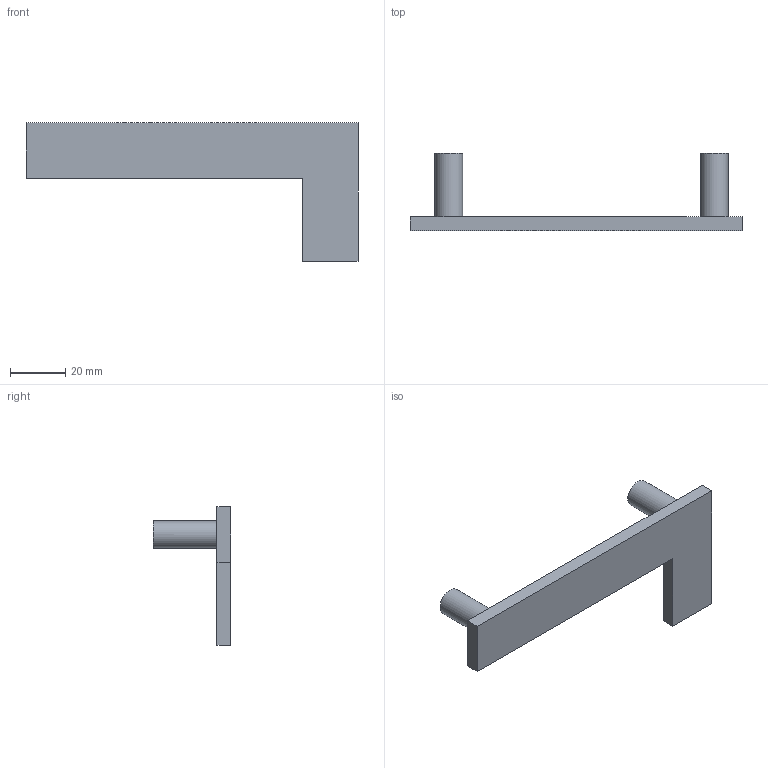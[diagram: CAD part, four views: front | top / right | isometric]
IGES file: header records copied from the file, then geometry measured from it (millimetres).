
Start section: Data from Parasolid IGES Translator 15.0.47, Copyright(c) 2006 Siemens P LM Software. All Rights Reserved.
Global section: file name: 9145271.igs; native system:  By UGS Corp.; preprocessor: XPlus GENERIC/IGES 3.0; author: Noname; organization: Noname; date: 20140123.103011; units: millimetre
Bounding box: 120 x 28 x 50 mm (x, y, z)
Surface area: 9396.5 mm2 (no closed solid volume)
Topology: 0 solids, 0 shells, 16 faces, 60 edges, 54 vertices
Faces by surface type: extrusion 12, revolution 4
